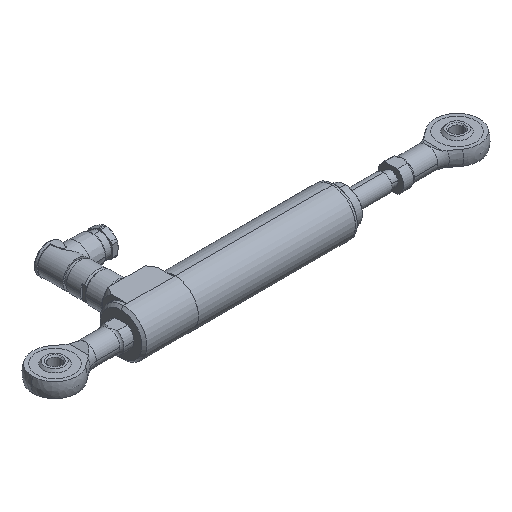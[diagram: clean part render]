
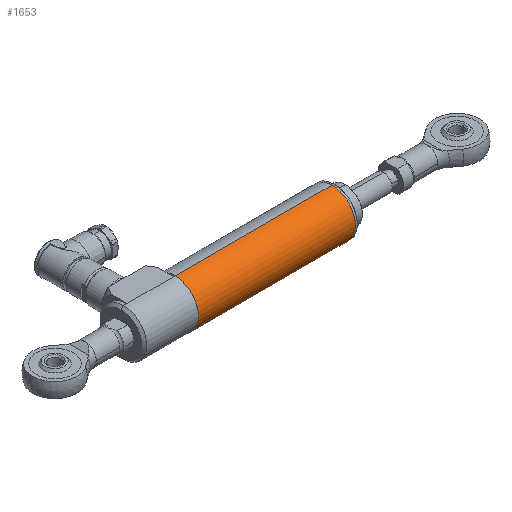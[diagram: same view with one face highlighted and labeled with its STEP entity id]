
A CAD part, isometric view. The second image highlights one B-rep face of the part: STEP entity #1653.
In plain terms, the highlighted cylindrical face has radius 9.525 mm (diameter 19.05 mm), a partial arc.
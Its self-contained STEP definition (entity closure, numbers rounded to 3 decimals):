
#228 = ORIENTED_EDGE ( 'NONE', *, *, #2908, .T. ) ;
#336 = VERTEX_POINT ( 'NONE', #1243 ) ;
#522 = CIRCLE ( 'NONE', #3601, 9.525 ) ;
#712 = DIRECTION ( 'NONE',  ( 0., 0., 1. ) ) ;
#717 = FACE_OUTER_BOUND ( 'NONE', #3702, .T. ) ;
#908 = LINE ( 'NONE', #2626, #1318 ) ;
#1200 = CARTESIAN_POINT ( 'NONE',  ( -31.2, 0., 9.525 ) ) ;
#1243 = CARTESIAN_POINT ( 'NONE',  ( 32.8, 0., 9.525 ) ) ;
#1311 = CARTESIAN_POINT ( 'NONE',  ( 32.8, 0., 0. ) ) ;
#1316 = VERTEX_POINT ( 'NONE', #6065 ) ;
#1318 = VECTOR ( 'NONE', #4207, 1000. ) ;
#1529 = LINE ( 'NONE', #6494, #4486 ) ;
#1589 = DIRECTION ( 'NONE',  ( -1., 0., 0. ) ) ;
#1653 = ADVANCED_FACE ( 'NONE', ( #717 ), #6774, .T. ) ;
#1902 = VERTEX_POINT ( 'NONE', #2630 ) ;
#2110 = AXIS2_PLACEMENT_3D ( 'NONE', #2877, #5104, #7130 ) ;
#2226 = DIRECTION ( 'NONE',  ( -1., 0., 0. ) ) ;
#2250 = EDGE_CURVE ( 'NONE', #1316, #2990, #3931, .T. ) ;
#2382 = ORIENTED_EDGE ( 'NONE', *, *, #5999, .T. ) ;
#2514 = EDGE_CURVE ( 'NONE', #1902, #1316, #908, .T. ) ;
#2626 = CARTESIAN_POINT ( 'NONE',  ( -31.2, 0., -9.525 ) ) ;
#2630 = CARTESIAN_POINT ( 'NONE',  ( 32.8, 0., -9.525 ) ) ;
#2877 = CARTESIAN_POINT ( 'NONE',  ( -31.2, 0., 0. ) ) ;
#2908 = EDGE_CURVE ( 'NONE', #1902, #336, #522, .T. ) ;
#2990 = VERTEX_POINT ( 'NONE', #1200 ) ;
#3574 = ORIENTED_EDGE ( 'NONE', *, *, #2250, .F. ) ;
#3601 = AXIS2_PLACEMENT_3D ( 'NONE', #1311, #2226, #712 ) ;
#3702 = EDGE_LOOP ( 'NONE', ( #5131, #228, #2382, #3574 ) ) ;
#3931 = CIRCLE ( 'NONE', #6523, 9.525 ) ;
#4207 = DIRECTION ( 'NONE',  ( -1., 0., 0. ) ) ;
#4290 = DIRECTION ( 'NONE',  ( -1., 0., 0. ) ) ;
#4486 = VECTOR ( 'NONE', #1589, 1000. ) ;
#5104 = DIRECTION ( 'NONE',  ( -1., 0., 0. ) ) ;
#5131 = ORIENTED_EDGE ( 'NONE', *, *, #2514, .F. ) ;
#5289 = DIRECTION ( 'NONE',  ( 0., 0., 1. ) ) ;
#5999 = EDGE_CURVE ( 'NONE', #336, #2990, #1529, .T. ) ;
#6065 = CARTESIAN_POINT ( 'NONE',  ( -31.2, 0., -9.525 ) ) ;
#6494 = CARTESIAN_POINT ( 'NONE',  ( -31.2, 0., 9.525 ) ) ;
#6523 = AXIS2_PLACEMENT_3D ( 'NONE', #7061, #4290, #5289 ) ;
#6774 = CYLINDRICAL_SURFACE ( 'NONE', #2110, 9.525 ) ;
#7061 = CARTESIAN_POINT ( 'NONE',  ( -31.2, 0., 0. ) ) ;
#7130 = DIRECTION ( 'NONE',  ( 0., 0., 1. ) ) ;
